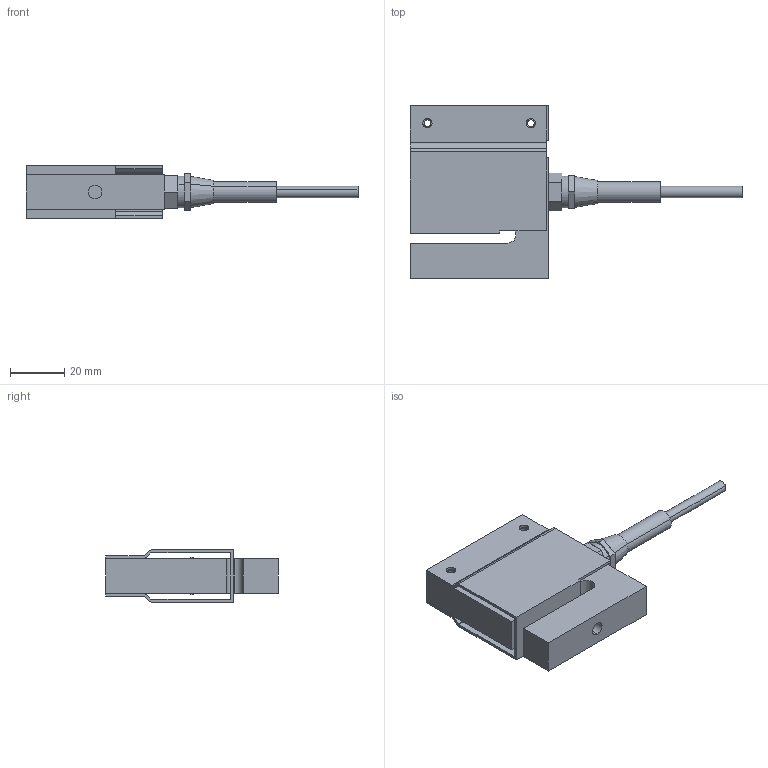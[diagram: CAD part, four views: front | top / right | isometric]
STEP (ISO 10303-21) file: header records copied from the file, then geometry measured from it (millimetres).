
FILE_DESCRIPTION (( 'STEP AP214' ), '1' );
FILE_NAME ('3D_KM1402_50N_200N.STEP', '2013-12-19T09:12:20', ( '' ), ( '' ), 'SwSTEP 2.0', 'SolidWorks 2012', '' );
FILE_SCHEMA (( 'AUTOMOTIVE_DESIGN' ));
Length unit declared in the file: millimetre
Products named in the file (1): 3D_KM1402_50N_200N
Bounding box: 121.9 x 63.5 x 19.2 mm (x, y, z)
Surface area: 23326.7 mm2 (no closed solid volume)
Topology: 0 solids, 3 shells, 86 faces, 231 edges, 154 vertices
Faces by surface type: plane 52, cylinder 32, cone 2
Entity records: 3696 total; most frequent: DIRECTION 477, CARTESIAN_POINT 472, ORIENTED_EDGE 450, EDGE_CURVE 231, LINE 159, VECTOR 159, AXIS2_PLACEMENT_3D 159, VERTEX_POINT 154
